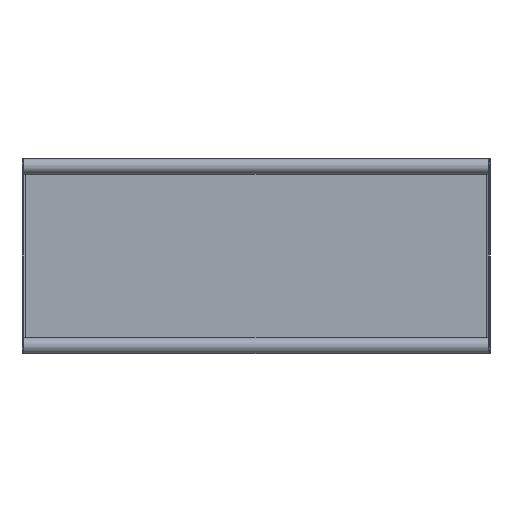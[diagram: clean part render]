
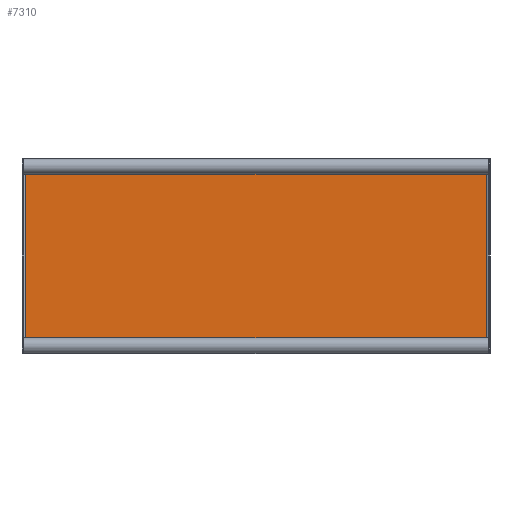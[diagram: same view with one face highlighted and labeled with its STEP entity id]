
A CAD part, front view. The second image highlights one B-rep face of the part: STEP entity #7310.
In plain terms, the highlighted planar face has unit normal (0, -1, 0).
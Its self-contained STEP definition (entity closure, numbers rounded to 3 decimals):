
#150 = DIRECTION ( 'NONE',  ( 1., 0., 0. ) ) ;
#369 = VERTEX_POINT ( 'NONE', #6009 ) ;
#465 = VECTOR ( 'NONE', #6601, 1000. ) ;
#554 = CARTESIAN_POINT ( 'NONE',  ( -299., -2., -121. ) ) ;
#558 = EDGE_CURVE ( 'NONE', #2130, #5713, #1690, .T. ) ;
#779 = CARTESIAN_POINT ( 'NONE',  ( 299., -2., -124. ) ) ;
#808 = CARTESIAN_POINT ( 'NONE',  ( 295., -2., -121. ) ) ;
#1086 = DIRECTION ( 'NONE',  ( 0., 1., 0. ) ) ;
#1563 = EDGE_CURVE ( 'NONE', #369, #2038, #3174, .T. ) ;
#1576 = DIRECTION ( 'NONE',  ( 0., -1., 0. ) ) ;
#1690 = CIRCLE ( 'NONE', #6644, 5. ) ;
#1888 = CARTESIAN_POINT ( 'NONE',  ( 295., -2., 121. ) ) ;
#1892 = CARTESIAN_POINT ( 'NONE',  ( 296., -2., -124. ) ) ;
#1986 = LINE ( 'NONE', #2790, #4639 ) ;
#2038 = VERTEX_POINT ( 'NONE', #808 ) ;
#2130 = VERTEX_POINT ( 'NONE', #8689 ) ;
#2176 = CARTESIAN_POINT ( 'NONE',  ( -296., -2., -120. ) ) ;
#2179 = ORIENTED_EDGE ( 'NONE', *, *, #5910, .F. ) ;
#2213 = ORIENTED_EDGE ( 'NONE', *, *, #4325, .F. ) ;
#2790 = CARTESIAN_POINT ( 'NONE',  ( -296., -2., -124. ) ) ;
#2920 = DIRECTION ( 'NONE',  ( 0., -1., 0. ) ) ;
#3053 = EDGE_LOOP ( 'NONE', ( #7445, #8895, #7254, #2179, #2213, #6045, #7503, #4641 ) ) ;
#3125 = VERTEX_POINT ( 'NONE', #7696 ) ;
#3174 = CIRCLE ( 'NONE', #8129, 5. ) ;
#3390 = EDGE_CURVE ( 'NONE', #369, #8085, #6437, .T. ) ;
#3438 = DIRECTION ( 'NONE',  ( 0., 0., 1. ) ) ;
#3936 = DIRECTION ( 'NONE',  ( 0., -1., 0. ) ) ;
#3972 = VECTOR ( 'NONE', #3438, 1000. ) ;
#4093 = FACE_OUTER_BOUND ( 'NONE', #3053, .T. ) ;
#4325 = EDGE_CURVE ( 'NONE', #6278, #3125, #4938, .T. ) ;
#4427 = VERTEX_POINT ( 'NONE', #1888 ) ;
#4626 = DIRECTION ( 'NONE',  ( 0., 0., 1. ) ) ;
#4627 = DIRECTION ( 'NONE',  ( 0., 0., 1. ) ) ;
#4639 = VECTOR ( 'NONE', #5041, 1000. ) ;
#4641 = ORIENTED_EDGE ( 'NONE', *, *, #5040, .T. ) ;
#4658 = CIRCLE ( 'NONE', #9621, 5. ) ;
#4736 = DIRECTION ( 'NONE',  ( 0., 0., 1. ) ) ;
#4899 = CARTESIAN_POINT ( 'NONE',  ( 296., -2., 120. ) ) ;
#4938 = CIRCLE ( 'NONE', #8964, 5. ) ;
#5040 = EDGE_CURVE ( 'NONE', #2130, #2038, #8843, .T. ) ;
#5041 = DIRECTION ( 'NONE',  ( 0., 0., 1. ) ) ;
#5264 = CARTESIAN_POINT ( 'NONE',  ( -299., -2., 124. ) ) ;
#5390 = DIRECTION ( 'NONE',  ( 0., -1., 0. ) ) ;
#5713 = VERTEX_POINT ( 'NONE', #2176 ) ;
#5910 = EDGE_CURVE ( 'NONE', #3125, #4427, #7738, .T. ) ;
#5977 = DIRECTION ( 'NONE',  ( 0., 0., 1. ) ) ;
#6009 = CARTESIAN_POINT ( 'NONE',  ( 296., -2., -120. ) ) ;
#6045 = ORIENTED_EDGE ( 'NONE', *, *, #7470, .F. ) ;
#6278 = VERTEX_POINT ( 'NONE', #6399 ) ;
#6399 = CARTESIAN_POINT ( 'NONE',  ( -296., -2., 120. ) ) ;
#6437 = LINE ( 'NONE', #1892, #3972 ) ;
#6601 = DIRECTION ( 'NONE',  ( 1., 0., 0. ) ) ;
#6644 = AXIS2_PLACEMENT_3D ( 'NONE', #8407, #5390, #4627 ) ;
#6999 = CARTESIAN_POINT ( 'NONE',  ( -299., -2., 121. ) ) ;
#7187 = DIRECTION ( 'NONE',  ( 0., 0., 1. ) ) ;
#7254 = ORIENTED_EDGE ( 'NONE', *, *, #7839, .F. ) ;
#7310 = ADVANCED_FACE ( 'NONE', ( #4093 ), #8010, .F. ) ;
#7413 = CARTESIAN_POINT ( 'NONE',  ( 299., -2., 124. ) ) ;
#7445 = ORIENTED_EDGE ( 'NONE', *, *, #1563, .F. ) ;
#7470 = EDGE_CURVE ( 'NONE', #5713, #6278, #1986, .T. ) ;
#7503 = ORIENTED_EDGE ( 'NONE', *, *, #558, .F. ) ;
#7696 = CARTESIAN_POINT ( 'NONE',  ( -295., -2., 121. ) ) ;
#7703 = AXIS2_PLACEMENT_3D ( 'NONE', #8729, #1086, #4736 ) ;
#7738 = LINE ( 'NONE', #6999, #9762 ) ;
#7839 = EDGE_CURVE ( 'NONE', #4427, #8085, #4658, .T. ) ;
#8010 = PLANE ( 'NONE',  #7703 ) ;
#8085 = VERTEX_POINT ( 'NONE', #4899 ) ;
#8129 = AXIS2_PLACEMENT_3D ( 'NONE', #779, #1576, #4626 ) ;
#8407 = CARTESIAN_POINT ( 'NONE',  ( -299., -2., -124. ) ) ;
#8689 = CARTESIAN_POINT ( 'NONE',  ( -295., -2., -121. ) ) ;
#8729 = CARTESIAN_POINT ( 'NONE',  ( -299., -2., -124. ) ) ;
#8843 = LINE ( 'NONE', #554, #465 ) ;
#8895 = ORIENTED_EDGE ( 'NONE', *, *, #3390, .T. ) ;
#8964 = AXIS2_PLACEMENT_3D ( 'NONE', #5264, #3936, #7187 ) ;
#9621 = AXIS2_PLACEMENT_3D ( 'NONE', #7413, #2920, #5977 ) ;
#9762 = VECTOR ( 'NONE', #150, 1000. ) ;
